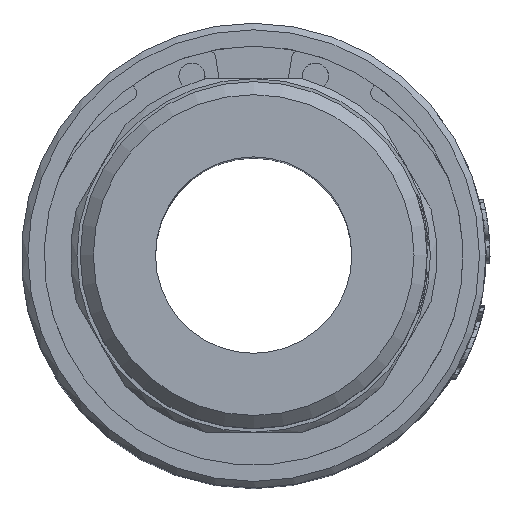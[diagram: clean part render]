
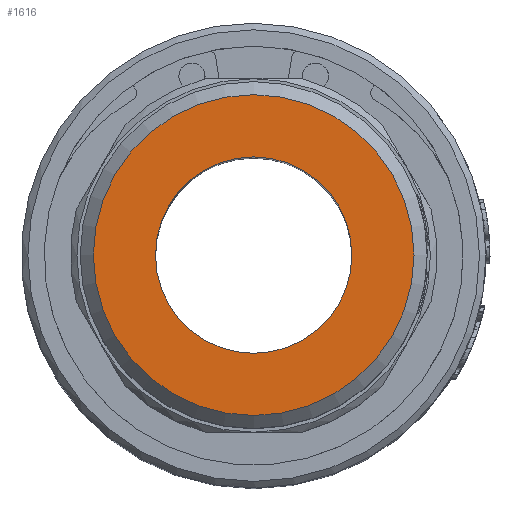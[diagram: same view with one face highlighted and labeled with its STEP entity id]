
A CAD part, top view. The second image highlights one B-rep face of the part: STEP entity #1616.
In plain terms, the highlighted planar face has unit normal (0, 0, 1).
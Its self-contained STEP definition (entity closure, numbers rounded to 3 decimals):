
#228=FACE_BOUND('',#3799,.T.);
#229=FACE_BOUND('',#3800,.T.);
#296=CIRCLE('',#17131,7.5);
#373=CIRCLE('',#17273,12.25);
#1616=ADVANCED_FACE('',(#228,#229),#2115,.T.);
#2115=PLANE('',#17274);
#3799=EDGE_LOOP('',(#8735));
#3800=EDGE_LOOP('',(#8736));
#8735=ORIENTED_EDGE('',*,*,#13965,.T.);
#8736=ORIENTED_EDGE('',*,*,#13815,.T.);
#11514=VERTEX_POINT('',#32420);
#11611=VERTEX_POINT('',#32810);
#13815=EDGE_CURVE('',#11514,#11514,#296,.T.);
#13965=EDGE_CURVE('',#11611,#11611,#373,.T.);
#17131=AXIS2_PLACEMENT_3D('',#32419,#18621,#18622);
#17273=AXIS2_PLACEMENT_3D('',#32809,#18952,#18953);
#17274=AXIS2_PLACEMENT_3D('',#32811,#18954,#18955);
#18621=DIRECTION('',(0.,0.,-1.));
#18622=DIRECTION('',(0.,1.,0.));
#18952=DIRECTION('',(0.,0.,1.));
#18953=DIRECTION('',(0.,1.,0.));
#18954=DIRECTION('',(0.,0.,1.));
#18955=DIRECTION('',(0.,-1.,0.));
#32419=CARTESIAN_POINT('',(0.,0.,69.));
#32420=CARTESIAN_POINT('',(0.,7.5,69.));
#32809=CARTESIAN_POINT('',(0.,0.,69.));
#32810=CARTESIAN_POINT('',(0.,12.25,69.));
#32811=CARTESIAN_POINT('',(0.,0.,69.));
